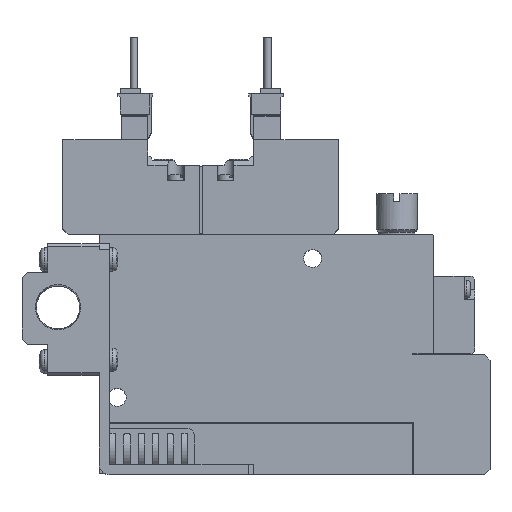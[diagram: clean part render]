
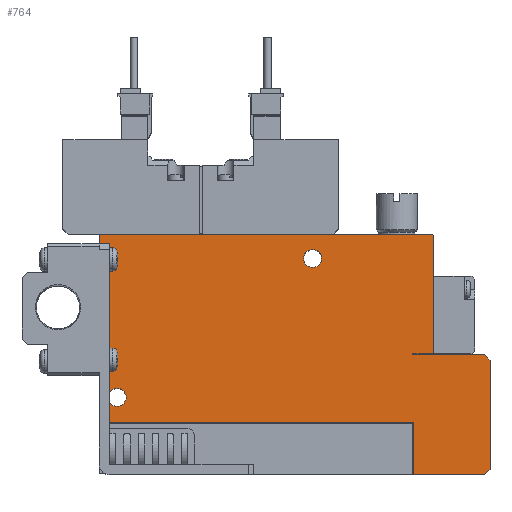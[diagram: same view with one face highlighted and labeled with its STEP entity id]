
A CAD part, top view. The second image highlights one B-rep face of the part: STEP entity #764.
In plain terms, the highlighted planar face has unit normal (0, 0, 1).
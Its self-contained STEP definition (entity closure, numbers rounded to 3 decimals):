
#764=ADVANCED_FACE('',(#1764,#1765,#1766),#1767,.F.);
#1764=FACE_OUTER_BOUND('',#3168,.T.);
#1765=FACE_BOUND('',#3169,.T.);
#1766=FACE_BOUND('',#3170,.T.);
#1767=PLANE('',#3171);
#3168=EDGE_LOOP('',(#6526,#6527,#6528,#6529,#6530,#6531,#6532,#6533,#6534,#6535,#6536,#6537,#6538,#6539));
#3169=EDGE_LOOP('',(#6540));
#3170=EDGE_LOOP('',(#6541));
#3171=AXIS2_PLACEMENT_3D('',#6542,#6543,#6544);
#6526=ORIENTED_EDGE('',*,*,#9773,.T.);
#6527=ORIENTED_EDGE('',*,*,#9774,.F.);
#6528=ORIENTED_EDGE('',*,*,#9775,.F.);
#6529=ORIENTED_EDGE('',*,*,#9776,.T.);
#6530=ORIENTED_EDGE('',*,*,#9777,.T.);
#6531=ORIENTED_EDGE('',*,*,#9778,.T.);
#6532=ORIENTED_EDGE('',*,*,#9779,.T.);
#6533=ORIENTED_EDGE('',*,*,#9766,.T.);
#6534=ORIENTED_EDGE('',*,*,#9623,.T.);
#6535=ORIENTED_EDGE('',*,*,#9620,.T.);
#6536=ORIENTED_EDGE('',*,*,#9626,.T.);
#6537=ORIENTED_EDGE('',*,*,#9611,.T.);
#6538=ORIENTED_EDGE('',*,*,#9602,.T.);
#6539=ORIENTED_EDGE('',*,*,#9692,.T.);
#6540=ORIENTED_EDGE('',*,*,#9780,.F.);
#6541=ORIENTED_EDGE('',*,*,#9781,.F.);
#6542=CARTESIAN_POINT('',(0.0,0.0,5.0));
#6543=DIRECTION('',(0.0,0.0,-1.0));
#6544=DIRECTION('',(0.0,-1.0,0.0));
#9602=EDGE_CURVE('',#11687,#11685,#11688,.T.);
#9611=EDGE_CURVE('',#11702,#11687,#11703,.T.);
#9620=EDGE_CURVE('',#11719,#11717,#11720,.T.);
#9623=EDGE_CURVE('',#11724,#11719,#11725,.T.);
#9626=EDGE_CURVE('',#11717,#11702,#11728,.T.);
#9692=EDGE_CURVE('',#11685,#11851,#11853,.T.);
#9766=EDGE_CURVE('',#11976,#11724,#11977,.T.);
#9773=EDGE_CURVE('',#11851,#11988,#11989,.T.);
#9774=EDGE_CURVE('',#11990,#11988,#11991,.T.);
#9775=EDGE_CURVE('',#11992,#11990,#11993,.T.);
#9776=EDGE_CURVE('',#11992,#11994,#11995,.T.);
#9777=EDGE_CURVE('',#11994,#11996,#11997,.T.);
#9778=EDGE_CURVE('',#11996,#11998,#11999,.T.);
#9779=EDGE_CURVE('',#11998,#11976,#12000,.T.);
#9780=EDGE_CURVE('',#12001,#12001,#12002,.T.);
#9781=EDGE_CURVE('',#12003,#12003,#12004,.T.);
#11685=VERTEX_POINT('',#15098);
#11687=VERTEX_POINT('',#15101);
#11688=LINE('',#15102,#15103);
#11702=VERTEX_POINT('',#15122);
#11703=LINE('',#15123,#15124);
#11717=VERTEX_POINT('',#15144);
#11719=VERTEX_POINT('',#15147);
#11720=LINE('',#15148,#15149);
#11724=VERTEX_POINT('',#15155);
#11725=LINE('',#15156,#15157);
#11728=LINE('',#15162,#15163);
#11851=VERTEX_POINT('',#15432);
#11853=LINE('',#15435,#15436);
#11976=VERTEX_POINT('',#15637);
#11977=LINE('',#15638,#15639);
#11988=VERTEX_POINT('',#15655);
#11989=LINE('',#15656,#15657);
#11990=VERTEX_POINT('',#15658);
#11991=LINE('',#15659,#15660);
#11992=VERTEX_POINT('',#15661);
#11993=LINE('',#15662,#15663);
#11994=VERTEX_POINT('',#15664);
#11995=LINE('',#15665,#15666);
#11996=VERTEX_POINT('',#15667);
#11997=LINE('',#15668,#15669);
#11998=VERTEX_POINT('',#15670);
#11999=LINE('',#15671,#15672);
#12000=LINE('',#15673,#15674);
#12001=VERTEX_POINT('',#15675);
#12002=CIRCLE('',#15676,1.75);
#12003=VERTEX_POINT('',#15677);
#12004=CIRCLE('',#15678,1.75);
#15098=CARTESIAN_POINT('',(0.2,46.6,5.0));
#15101=CARTESIAN_POINT('',(64.8,46.6,5.0));
#15102=CARTESIAN_POINT('',(64.8,46.6,5.0));
#15103=VECTOR('',#18841,1.0);
#15122=CARTESIAN_POINT('',(65.0,46.4,5.0));
#15123=CARTESIAN_POINT('',(65.0,46.4,5.0));
#15124=VECTOR('',#18856,1.0);
#15144=CARTESIAN_POINT('',(65.0,23.5,5.0));
#15147=CARTESIAN_POINT('',(61.0,23.5,5.0));
#15148=CARTESIAN_POINT('',(61.0,23.5,5.0));
#15149=VECTOR('',#18867,1.0);
#15155=CARTESIAN_POINT('',(61.0,23.25,5.0));
#15156=CARTESIAN_POINT('',(61.0,23.25,5.0));
#15157=VECTOR('',#18870,1.0);
#15162=CARTESIAN_POINT('',(65.0,23.5,5.0));
#15163=VECTOR('',#18873,1.0);
#15432=CARTESIAN_POINT('',(0.0,46.4,5.0));
#15435=CARTESIAN_POINT('',(0.2,46.6,5.0));
#15436=VECTOR('',#18967,1.0);
#15637=CARTESIAN_POINT('',(75.0,23.25,5.0));
#15638=CARTESIAN_POINT('',(75.0,23.25,5.0));
#15639=VECTOR('',#19061,1.0);
#15655=CARTESIAN_POINT('',(0.0,10.1,5.0));
#15656=CARTESIAN_POINT('',(0.0,46.4,5.0));
#15657=VECTOR('',#19070,1.0);
#15658=CARTESIAN_POINT('',(61.1,10.1,5.0));
#15659=CARTESIAN_POINT('',(61.1,10.1,5.0));
#15660=VECTOR('',#19071,1.0);
#15661=CARTESIAN_POINT('',(61.1,0.0,5.0));
#15662=CARTESIAN_POINT('',(61.1,0.0,5.0));
#15663=VECTOR('',#19072,1.0);
#15664=CARTESIAN_POINT('',(75.0,0.0,5.0));
#15665=CARTESIAN_POINT('',(0.0,0.0,5.0));
#15666=VECTOR('',#19073,1.0);
#15667=CARTESIAN_POINT('',(76.0,1.0,5.0));
#15668=CARTESIAN_POINT('',(75.0,0.0,5.0));
#15669=VECTOR('',#19074,1.0);
#15670=CARTESIAN_POINT('',(76.0,22.25,5.0));
#15671=CARTESIAN_POINT('',(76.0,1.0,5.0));
#15672=VECTOR('',#19075,1.0);
#15673=CARTESIAN_POINT('',(76.0,22.25,5.0));
#15674=VECTOR('',#19076,1.0);
#15675=CARTESIAN_POINT('',(5.25,15.0,5.0));
#15676=AXIS2_PLACEMENT_3D('',#19077,#19078,#19079);
#15677=CARTESIAN_POINT('',(43.25,42.0,5.0));
#15678=AXIS2_PLACEMENT_3D('',#19080,#19081,#19082);
#18841=DIRECTION('',(-1.0,0.0,0.0));
#18856=DIRECTION('',(-0.707,0.707,0.0));
#18867=DIRECTION('',(1.0,0.,0.0));
#18870=DIRECTION('',(0.0,1.0,0.0));
#18873=DIRECTION('',(0.0,1.0,0.0));
#18967=DIRECTION('',(-0.707,-0.707,0.0));
#19061=DIRECTION('',(-1.0,0.0,0.0));
#19070=DIRECTION('',(0.0,-1.0,0.0));
#19071=DIRECTION('',(-1.0,0.0,0.0));
#19072=DIRECTION('',(0.0,1.0,0.0));
#19073=DIRECTION('',(1.0,0.0,0.0));
#19074=DIRECTION('',(0.707,0.707,0.0));
#19075=DIRECTION('',(0.0,1.0,0.0));
#19076=DIRECTION('',(-0.707,0.707,0.0));
#19077=CARTESIAN_POINT('',(3.5,15.0,5.0));
#19078=DIRECTION('',(0.0,0.0,1.0));
#19079=DIRECTION('',(1.0,0.0,0.0));
#19080=CARTESIAN_POINT('',(41.5,42.0,5.0));
#19081=DIRECTION('',(0.0,0.0,1.0));
#19082=DIRECTION('',(1.0,0.0,0.0));
